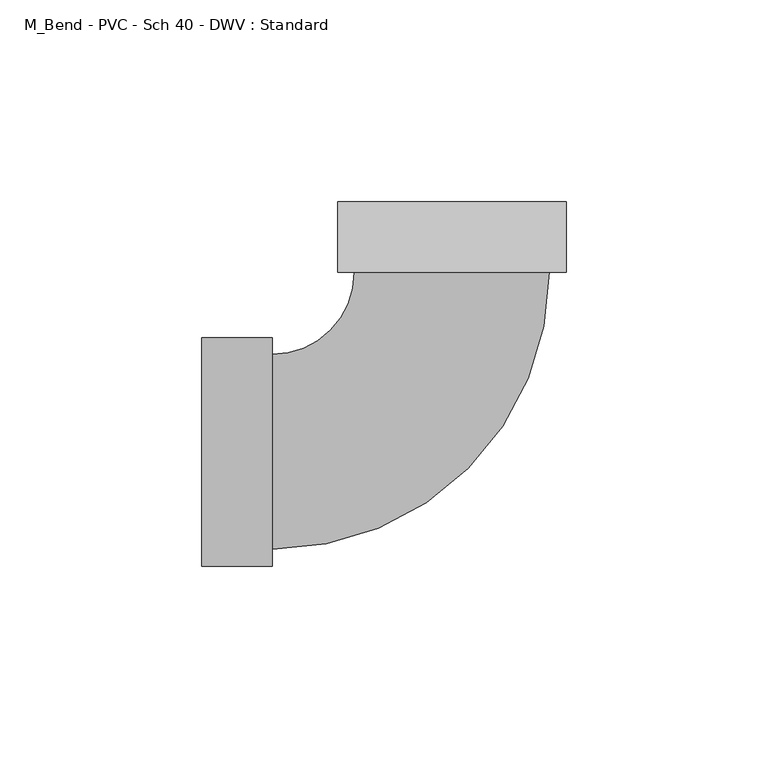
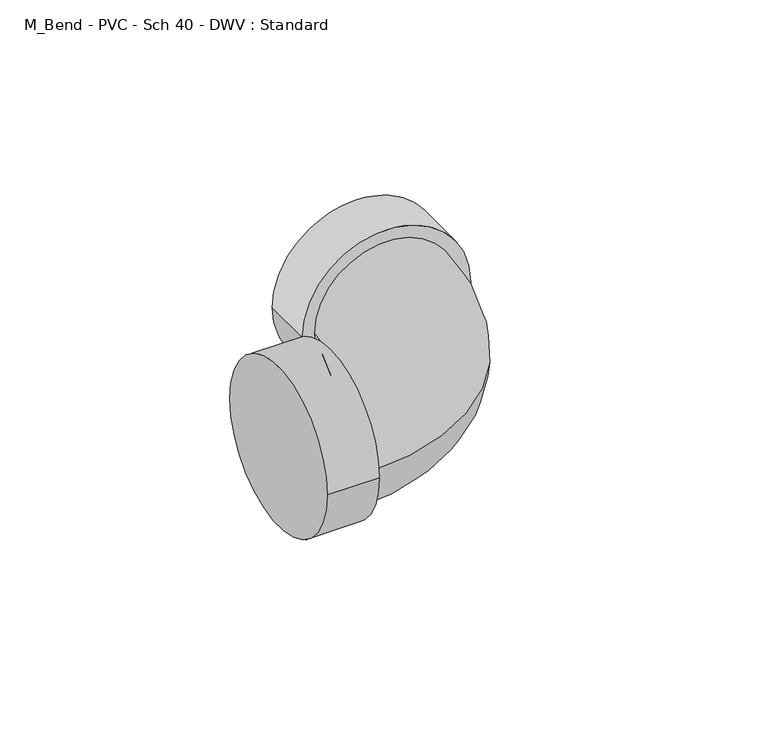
"""IFC4 building model written with IfcOpenShell, lengths in millimetres: pipe fitting geometry, M_Bend - PVC - Sch 40 - DWV : Standard."""

import ifcopenshell
import ifcopenshell.guid

model = None  # the IFC model being written
_history = None  # IfcOwnerHistory: only IFC2X3 demands one
_inside = {}  # id of a spatial element -> (the spatial element, [elements in it])
_under = {}  # id of a project, library or spatial element -> (it, [spatial elements below it])
_declared = {}  # id of a project -> (the project, [libraries it declares])
_typed = {}  # id of a type object -> (the type object, [elements of that type])
_made_of = {}  # id of a material, layer set ... -> (it, [elements and type objects made of it])


def new_model(schema):
    """Start an empty IFC model of exactly this schema.

    Asked for "IFC4X3", IfcOpenShell would pick the latest addendum, in which some entities
    have other attributes; the version numbers below select the first issue.
    IFC2X3 requires an IfcOwnerHistory on every rooted entity: one is made here for all.
    """
    global model, _history
    if schema == "IFC4X3":
        model = ifcopenshell.file(schema_version=(4, 3, 0, 0))
    else:
        model = ifcopenshell.file(schema=schema)
    _inside.clear()
    _under.clear()
    _declared.clear()
    _typed.clear()
    _made_of.clear()
    _history = None
    if model.schema == "IFC2X3":
        org = make("IfcOrganization", Name="unknown")
        user = make(
            "IfcPersonAndOrganization",
            ThePerson=make("IfcPerson", FamilyName="unknown"),
            TheOrganization=org,
        )
        app = make(
            "IfcApplication",
            ApplicationDeveloper=org,
            Version="unknown",
            ApplicationFullName="unknown",
            ApplicationIdentifier="unknown",
        )
        _history = make(
            "IfcOwnerHistory",
            OwningUser=user,
            OwningApplication=app,
            ChangeAction="ADDED",
            CreationDate=0,
        )
    return model


def make(cls, **values):
    """One entity of the class cls with the attributes given. An attribute that is None is left unset."""
    return model.create_entity(
        cls, **{name: value for name, value in values.items() if value is not None}
    )


def rooted(cls, **values):
    """An entity with a GlobalId (a new one), such as an element, a storey or a relation."""
    return make(cls, GlobalId=ifcopenshell.guid.new(), OwnerHistory=_history, **values)


def si_unit(unit_type, name, prefix=None):
    """IfcSIUnit, for example si_unit("LENGTHUNIT", "METRE", prefix="MILLI")."""
    return make("IfcSIUnit", UnitType=unit_type, Prefix=prefix, Name=name)


def assignment(units):
    """IfcUnitAssignment: the units of a project."""
    return None if units is None else make("IfcUnitAssignment", Units=units)


def point(xyz):
    """IfcCartesianPoint."""
    return None if xyz is None else make("IfcCartesianPoint", Coordinates=xyz)


def direction(xyz):
    """IfcDirection."""
    return None if xyz is None else make("IfcDirection", DirectionRatios=xyz)


def frame(location, z_axis=None, x_axis=None):
    """IfcAxis2Placement3D, a coordinate frame: its origin and axes. An axis left out is left unset."""
    return make(
        "IfcAxis2Placement3D",
        Location=point(location),
        Axis=direction(z_axis),
        RefDirection=direction(x_axis),
    )


def origin():
    """The frame at (0, 0, 0) with its axes left unset."""
    return frame((0.0, 0.0, 0.0))


def place(relative_to, where):
    """IfcLocalPlacement: puts the frame where relative to a parent placement (None: the world)."""
    return make(
        "IfcLocalPlacement", PlacementRelTo=relative_to, RelativePlacement=where
    )


def context(
    kind, dimensions, precision=None, world=None, true_north=None, identifier=None
):
    """IfcGeometricRepresentationContext, for example the 3D "Model" context."""
    return make(
        "IfcGeometricRepresentationContext",
        ContextIdentifier=identifier,
        ContextType=kind,
        CoordinateSpaceDimension=dimensions,
        Precision=precision,
        WorldCoordinateSystem=world,
        TrueNorth=true_north,
    )


def project(units=None, contexts=None):
    """IfcProject with its units and contexts."""
    return rooted(
        "IfcProject",
        Name="project",
        RepresentationContexts=contexts,
        UnitsInContext=assignment(units),
    )


def spatial(cls, under=None, at=None, **own):
    """A site, building, storey or space (cls), placed at a placement, below another one or the project."""
    s = rooted(cls, ObjectPlacement=at, **own)
    if under is not None:
        _under.setdefault(under.id(), (under, []))[1].append(s)
    return s


def circle_curve(where, radius):
    """IfcCircle in the frame where."""
    return make("IfcCircle", Position=where, Radius=radius)


def ellipse_curve(where, semi_axis1, semi_axis2):
    """IfcEllipse in the frame where."""
    return make(
        "IfcEllipse", Position=where, SemiAxis1=semi_axis1, SemiAxis2=semi_axis2
    )


def trimmed(basis, trim1, trim2, sense, master):
    """IfcTrimmedCurve: the piece of a basis curve between two trims."""
    return make(
        "IfcTrimmedCurve",
        BasisCurve=basis,
        Trim1=trim1,
        Trim2=trim2,
        SenseAgreement=sense,
        MasterRepresentation=master,
    )


def shape(context_of_items, identifier, shape_type, items):
    """IfcShapeRepresentation: the items that make up one representation, for example the "Body"."""
    return make(
        "IfcShapeRepresentation",
        ContextOfItems=context_of_items,
        RepresentationIdentifier=identifier,
        RepresentationType=shape_type,
        Items=items,
    )


def source(mapping_origin, context_of_items, identifier, shape_type, items):
    """IfcRepresentationMap: a shape defined once, which mapped items show again and again."""
    return make(
        "IfcRepresentationMap",
        MappingOrigin=mapping_origin,
        MappedRepresentation=shape(context_of_items, identifier, shape_type, items),
    )


def transform(
    local_origin,
    x_axis=None,
    y_axis=None,
    z_axis=None,
    scale=None,
    scale2=None,
    scale3=None,
    uniform=True,
):
    """IfcCartesianTransformationOperator3D, or its non-uniform kind. x_axis, y_axis, z_axis: its Axis1, 2, 3."""
    if uniform:
        return make(
            "IfcCartesianTransformationOperator3D",
            Axis1=direction(x_axis),
            Axis2=direction(y_axis),
            LocalOrigin=point(local_origin),
            Scale=scale,
            Axis3=direction(z_axis),
        )
    return make(
        "IfcCartesianTransformationOperator3DnonUniform",
        Axis1=direction(x_axis),
        Axis2=direction(y_axis),
        LocalOrigin=point(local_origin),
        Scale=scale,
        Axis3=direction(z_axis),
        Scale2=scale2,
        Scale3=scale3,
    )


def mapped(mapping_source, mapping_target):
    """IfcMappedItem: shows the shape of a source again, moved by a transform."""
    return make(
        "IfcMappedItem", MappingSource=mapping_source, MappingTarget=mapping_target
    )


def made_of(thing, what):
    """Note that an element or type object is made of a material, layer set ...; save() writes the relation."""
    if what is not None:
        _made_of.setdefault(what.id(), (what, []))[1].append(thing)
    return thing


def element(
    cls,
    number,
    at=None,
    inside=None,
    cuts=None,
    type_object=None,
    material=None,
    context=None,
    identifier="Body",
    shape_type=None,
    held_by="IfcProductDefinitionShape",
    body=None,
    shapes=None,
    **own,
):
    """One element of the class cls, such as IfcWall. Its Tag is "e" and its number.

    at: its placement. inside: the storey or other place that contains it. cuts: it is an
    opening in that element (IfcRelVoidsElement). A single representation is given by context,
    identifier, shape_type and body (its items); several are given by shapes. held_by: the class
    of the entity that holds the representations. save() writes the other relations.
    """
    e = rooted(cls, Tag="e%d" % number, ObjectPlacement=at, **own)
    if body is not None:
        shapes = [shape(context, identifier, shape_type, body)]
    if shapes is not None:
        e.Representation = make(held_by, Representations=shapes)
    if inside is not None:
        _inside.setdefault(inside.id(), (inside, []))[1].append(e)
    if cuts is not None:
        rooted(
            "IfcRelVoidsElement", RelatingBuildingElement=cuts, RelatedOpeningElement=e
        )
    if type_object is not None:
        _typed.setdefault(type_object.id(), (type_object, []))[1].append(e)
    return made_of(e, material)


def aggregate(whole, parts):
    """IfcRelAggregates: a whole, such as a stair, and the parts it consists of."""
    return rooted("IfcRelAggregates", RelatingObject=whole, RelatedObjects=parts)


def save(model, path):
    """Write the relations noted so far, then the file.

    IfcRelAggregates (storeys below a building ...), IfcRelContainedInSpatialStructure (elements
    in a storey), IfcRelDefinesByType, IfcRelAssociatesMaterial and IfcRelDeclares: one each for
    every whole, place, type object, material and project.
    """
    for whole, parts in _under.values():
        aggregate(whole, parts)
    for where, things in _inside.values():
        rooted(
            "IfcRelContainedInSpatialStructure",
            RelatedElements=things,
            RelatingStructure=where,
        )
    for kind, things in _typed.values():
        rooted("IfcRelDefinesByType", RelatedObjects=things, RelatingType=kind)
    for what, things in _made_of.values():
        rooted("IfcRelAssociatesMaterial", RelatedObjects=things, RelatingMaterial=what)
    for by, libraries in _declared.values():
        rooted("IfcRelDeclares", RelatingContext=by, RelatedDefinitions=libraries)
    model.write(path)


def plane_surface(at):
    """IfcPlane: the flat surface through the origin of the frame at, square to its z axis."""
    return make("IfcPlane", Position=at)


def cylinder_surface(at, radius):
    """IfcCylindricalSurface: all points at the distance radius from the z axis of the frame at."""
    return make("IfcCylindricalSurface", Position=at, Radius=radius)


def revolved_surface(curve, axis_point, axis_direction):
    """IfcSurfaceOfRevolution: the curve turned about the line through axis_point along axis_direction."""
    return make(
        "IfcSurfaceOfRevolution",
        SweptCurve=make("IfcArbitraryOpenProfileDef", ProfileType="CURVE", Curve=curve),
        AxisPosition=make("IfcAxis1Placement", Location=point(axis_point), Axis=direction(axis_direction)),
    )


def advanced_brep(points, edges, surfaces, faces):
    """IfcAdvancedBrep: a solid bounded by faces that lie on surfaces and meet in shared edges.

    An edge is (start, end): straight between two places in points (the first is 0);
    or (start, end, curve); or (start, end, curve, False) where it runs against its curve.
    A face is (place in surfaces, loops), or (place, loops, False) where it looks against
    its surface's normal. A loop lists edges by number (the first is 1), with a minus sign
    where the edge is run from its end to its start. The first loop is the outer one.
    """
    corners = [point(p) for p in points]
    vertices = [make("IfcVertexPoint", VertexGeometry=c) for c in corners]
    made = []
    for start, end, *more in edges:
        made.append(
            make(
                "IfcEdgeCurve",
                EdgeStart=vertices[start],
                EdgeEnd=vertices[end],
                EdgeGeometry=more[0] if more else make("IfcPolyline", Points=[corners[start], corners[end]]),
                SameSense=more[1] if len(more) > 1 else True,
            )
        )
    hull = []
    for where, loops, *sense in faces:
        bounds = []
        for j, loop in enumerate(loops):
            ring = [make("IfcOrientedEdge", EdgeElement=made[abs(k) - 1], Orientation=k > 0) for k in loop]
            bounds.append(
                make(
                    "IfcFaceOuterBound" if j == 0 else "IfcFaceBound",
                    Bound=make("IfcEdgeLoop", EdgeList=ring),
                    Orientation=True,
                )
            )
        hull.append(make("IfcAdvancedFace", Bounds=bounds, FaceSurface=surfaces[where], SameSense=sense[0] if sense else True))
    return make("IfcAdvancedBrep", Outer=make("IfcClosedShell", CfsFaces=hull))


def m_bend_pvc_sch_40_dwv_standard_cb2c61c2(model_context):
    return source(origin(), model_context, "Body", "AdvancedBrep", [
        advanced_brep(
        [(-61.8998, -28.2829, 0.0), (-61.8998, 28.2829, 0.0), (-44.45, -28.2829, 0.0), (-44.45, 28.2829, 0.0), (-44.45, -24.13, 0.0), (-44.45, 24.13, 0.0), (-24.1288934, 44.4506007, 0.0), (24.1311066, 44.4493993, 0.0), (28.2840066, 44.4492959, 0.0), (-28.2817934, 44.4507041, 0.0), (28.284441, 61.8990959, 0.0), (-28.281359, 61.9005041, 0.0)],
        [
            (0, 1, circle_curve(frame((-61.8998, 0.0, 0.0), z_axis=(-1.0, 0.0, 0.0), x_axis=(0.0, 1.0, 0.0)), 28.2829)),
            (1, 0, circle_curve(frame((-61.8998, 0.0, 0.0), z_axis=(-1.0, 0.0, 0.0), x_axis=(0.0, 1.0, 0.0)), 28.2829)),
            (2, 3, circle_curve(frame((-44.45, 0.0, 0.0), z_axis=(1.0, 0.0, 0.0), x_axis=(0.0, 1.0, 0.0)), 28.2829)),
            (3, 2, circle_curve(frame((-44.45, 0.0, 0.0), z_axis=(1.0, 0.0, 0.0), x_axis=(0.0, 1.0, 0.0)), 28.2829)),
            (4, 5, circle_curve(frame((-44.45, 0.0, 0.0), z_axis=(-1.0, 0.0, 0.0), x_axis=(0.0, 1.0, 0.0)), 24.13)),
            (5, 4, circle_curve(frame((-44.45, 0.0, 0.0), z_axis=(-1.0, 0.0, 0.0), x_axis=(0.0, 1.0, 0.0)), 24.13)),
            (0, 2),
            (3, 1),
            (6, 5, circle_curve(frame((-44.45, 44.4511066, 0.0), z_axis=(0.0, 0.0, -1.0), x_axis=(0.0, -1.0, 0.0)), 20.3211066)),
            (4, 7, circle_curve(frame((-44.45, 44.4511066, 0.0), z_axis=(0.0, 0.0, 1.0), x_axis=(0.0, -1.0, 0.0)), 68.5811066)),
            (7, 6, circle_curve(frame((0.0011066, 44.45, 0.0), z_axis=(-2.4895703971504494e-05, -0.999999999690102, 0.0), x_axis=(-0.999999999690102, 2.4895703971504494e-05, 0.0)), 24.13)),
            (6, 7, circle_curve(frame((0.0011066, 44.45, 0.0), z_axis=(-2.4895703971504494e-05, -0.999999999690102, 0.0), x_axis=(-0.999999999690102, 2.4895703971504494e-05, 0.0)), 24.13)),
            (8, 9, circle_curve(frame((0.0011066, 44.45, 0.0), z_axis=(-2.4895703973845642e-05, -0.999999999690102, 0.0), x_axis=(-0.999999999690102, 2.4895703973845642e-05, 0.0)), 28.2829)),
            (9, 8, circle_curve(frame((0.0011066, 44.45, 0.0), z_axis=(-2.4895703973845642e-05, -0.999999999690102, 0.0), x_axis=(-0.999999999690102, 2.4895703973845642e-05, 0.0)), 28.2829)),
            (10, 11, circle_curve(frame((0.001541, 61.8998, 0.0), z_axis=(2.4895703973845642e-05, 0.999999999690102, 0.0), x_axis=(-0.999999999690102, 2.4895703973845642e-05, 0.0)), 28.2829)),
            (11, 10, circle_curve(frame((0.001541, 61.8998, 0.0), z_axis=(2.4895703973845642e-05, 0.999999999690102, 0.0), x_axis=(-0.999999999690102, 2.4895703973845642e-05, 0.0)), 28.2829)),
            (8, 10),
            (11, 9),
        ],
        [
            plane_surface(frame((-61.8998, 0.0, 0.0), z_axis=(-1.0, 0.0, 0.0), x_axis=(0.0, 0.0, 1.0))),
            plane_surface(frame((-44.45, 0.0, 0.0), z_axis=(1.0, 0.0, 0.0), x_axis=(0.0, 0.0, 1.0))),
            cylinder_surface(frame((-61.8998, 0.0, 0.0), z_axis=(-1.0, 0.0, 0.0), x_axis=(0.0, 1.0, 0.0)), 28.2829),
            revolved_surface(trimmed(ellipse_curve(frame((-44.45, 0.0, 0.0), z_axis=(-1.0, 0.0, 0.0), x_axis=(0.0, 1.0, 0.0)), 24.13, 24.13), [point((-44.45, -24.13, 0.0))], [point((-44.45, 24.13, 0.0))], True, "CARTESIAN"), (-44.45, 44.4511066, 0.0), (0.0, 0.0, 1.0)),
            revolved_surface(trimmed(ellipse_curve(frame((-44.45, 0.0, 0.0), z_axis=(-1.0, 0.0, 0.0), x_axis=(0.0, 1.0, 0.0)), 24.13, 24.13), [point((-44.45, 24.13, 0.0))], [point((-44.45, -24.13, 0.0))], True, "CARTESIAN"), (-44.45, 44.4511066, 0.0), (0.0, 0.0, 1.0)),
            plane_surface(frame((0.0011066, 44.45, 0.0), z_axis=(-2.4895703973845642e-05, -0.999999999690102, 0.0), x_axis=(0.0, 0.0, 1.0))),
            plane_surface(frame((0.001541, 61.8998, 0.0), z_axis=(2.4895703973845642e-05, 0.999999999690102, 0.0), x_axis=(0.0, 0.0, 1.0))),
            cylinder_surface(frame((0.0011066, 44.45, 0.0), z_axis=(-2.4895703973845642e-05, -0.999999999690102, 0.0), x_axis=(-0.999999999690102, 2.4895703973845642e-05, 0.0)), 28.2829),
        ],
        [
            (0, [[1, 2]]),
            (1, [[3, 4], [5, 6]]),
            (2, [[-1, 7, -4, 8]]),
            (2, [[-2, -8, -3, -7]]),
            (3, [[9, -5, 10, 11]]),
            (4, [[-9, 12, -10, -6]]),
            (5, [[13, 14], [-11, -12]]),
            (6, [[15, 16]]),
            (7, [[-13, 17, -16, 18]]),
            (7, [[-14, -18, -15, -17]]),
        ],
    ),
    ])


if __name__ == "__main__":
    model = new_model("IFC4")
    model_context = context("Model", 3, world=origin())
    ifc_project = project(units=[si_unit("LENGTHUNIT", "METRE", prefix="MILLI")], contexts=[model_context])
    site = spatial("IfcSite", under=ifc_project)
    building = spatial("IfcBuilding", under=site)
    placement = place(None, origin())
    m_bend_pvc_sch_40_dwv_standard_shape = m_bend_pvc_sch_40_dwv_standard_cb2c61c2(model_context)
    element("IfcPipeFitting", 1, ObjectType="M_Bend - PVC - Sch 40 - DWV : Standard", at=placement, inside=building, context=model_context, shape_type="MappedRepresentation", body=[
        mapped(m_bend_pvc_sch_40_dwv_standard_shape, transform((0.0, 0.0, 0.0), x_axis=(1.0, 0.0, 0.0), y_axis=(0.0, 1.0, 0.0), z_axis=(0.0, 0.0, 1.0))),
    ])
    save(model, "model.ifc")
